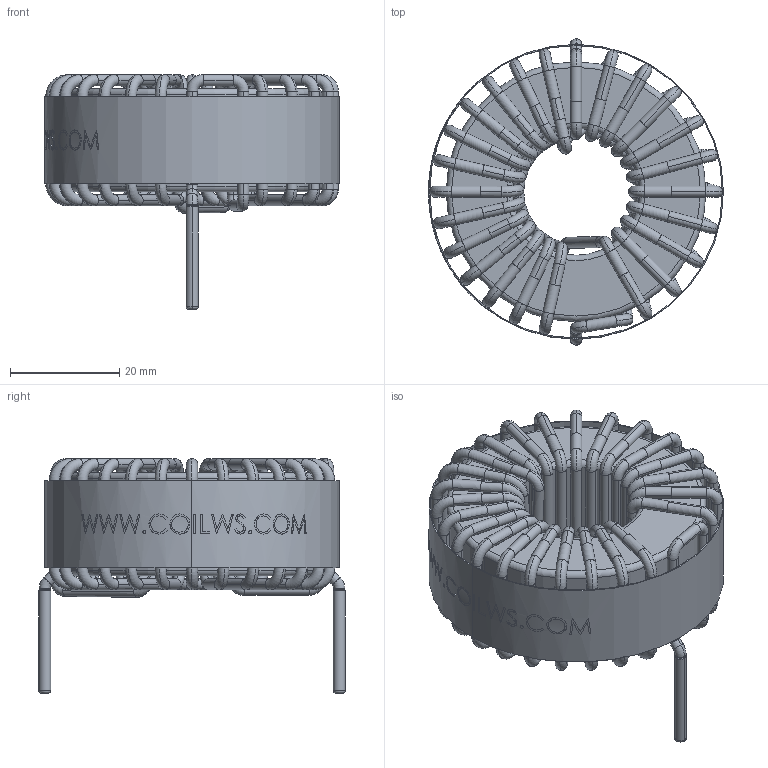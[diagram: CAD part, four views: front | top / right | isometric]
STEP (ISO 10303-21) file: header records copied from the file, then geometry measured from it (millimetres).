
FILE_DESCRIPTION (( 'STEP AP214' ), '1' );
FILE_NAME ('HF467-980M-25AH.STEP', '2021-03-18T11:09:34', ( '' ), ( '' ), 'SwSTEP 2.0', 'SolidWorks 2015', '' );
FILE_SCHEMA (( 'AUTOMOTIVE_DESIGN' ));
Length unit declared in the file: millimetre
Products named in the file (4): WRAPPER; HF467-980M-25AH; WINDING; CORE
Assembly tree (3 placements, depth 2):
  HF467-980M-25AH
    CORE
    WINDING
    WRAPPER
Bounding box: 54.07 x 56.2 x 43.02 mm (x, y, z)
Volume: 32013.6 mm3; surface area: 24106.9 mm2
Topology: 36 solids, 36 shells, 728 faces, 1872 edges, 1232 vertices
Faces by surface type: cylinder 296, torus 222, plane 107, bspline 103
Entity records: 36920 total; most frequent: CARTESIAN_POINT 14077, DIRECTION 4038, ORIENTED_EDGE 3744, EDGE_CURVE 1872, AXIS2_PLACEMENT_3D 1869, CIRCLE 1238, VERTEX_POINT 1232, EDGE_LOOP 748
